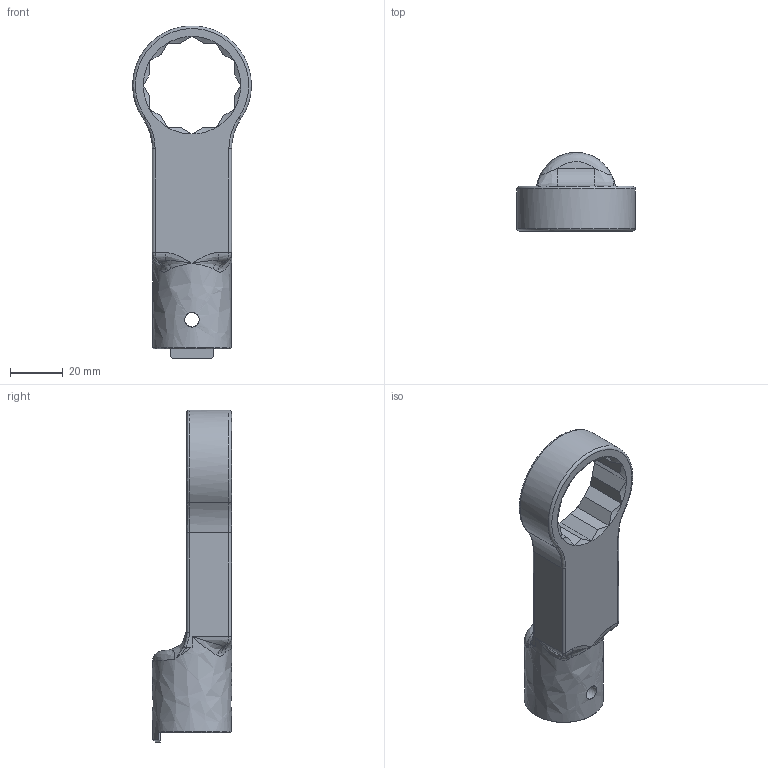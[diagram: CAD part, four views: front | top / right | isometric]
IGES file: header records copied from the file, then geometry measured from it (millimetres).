
Global section: file name: RH22DX32; native system: Autodesk Inventor 2016; preprocessor: unknown; author: Q600; date: 20151110.163456; units: millimetre
Bounding box: 44.99 x 30 x 125.98 mm (x, y, z)
Volume: 47439 mm3; surface area: 15121.9 mm2
Topology: 1 solids, 1 shells, 89 faces, 241 edges, 141 vertices
Faces by surface type: bspline 89
